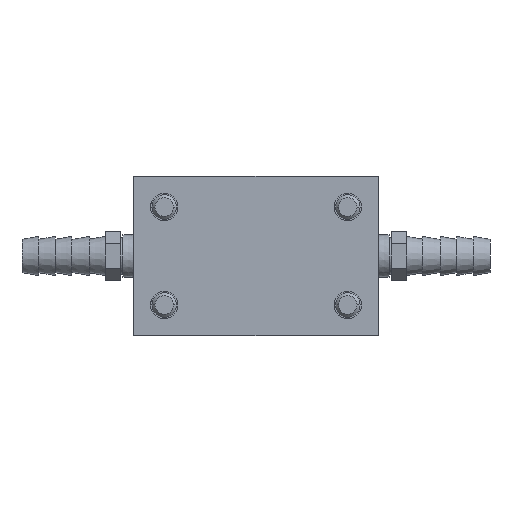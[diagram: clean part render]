
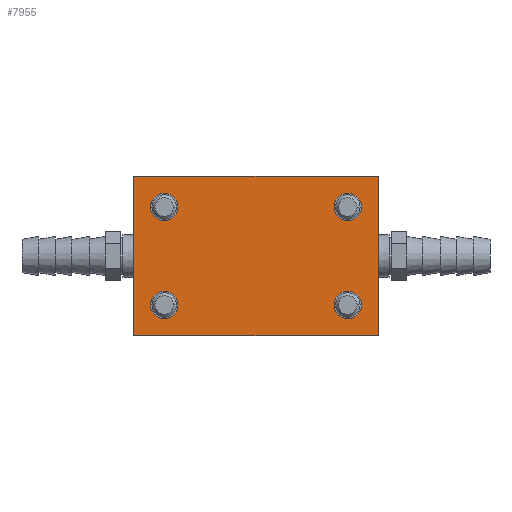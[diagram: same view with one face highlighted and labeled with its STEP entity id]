
A CAD part, left-side view. The second image highlights one B-rep face of the part: STEP entity #7955.
In plain terms, the highlighted planar face has unit normal (-1, 0, 0).
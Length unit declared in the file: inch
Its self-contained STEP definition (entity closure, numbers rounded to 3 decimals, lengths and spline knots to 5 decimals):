
#7693=CARTESIAN_POINT('',(-3.125,-0.9375,-0.5));
#7694=DIRECTION('',(1.,0.,0.));
#7695=DIRECTION('',(0.,-1.,0.));
#7696=AXIS2_PLACEMENT_3D('',#7693,#7694,#7695);
#7698=CARTESIAN_POINT('',(-3.125,-0.9375,-0.5));
#7699=DIRECTION('',(1.,0.,0.));
#7700=DIRECTION('',(0.,1.,0.));
#7701=AXIS2_PLACEMENT_3D('',#7698,#7699,#7700);
#7703=CARTESIAN_POINT('',(-3.125,0.9375,-0.5));
#7704=DIRECTION('',(1.,0.,0.));
#7705=DIRECTION('',(0.,-1.,0.));
#7706=AXIS2_PLACEMENT_3D('',#7703,#7704,#7705);
#7708=CARTESIAN_POINT('',(-3.125,0.9375,-0.5));
#7709=DIRECTION('',(1.,0.,0.));
#7710=DIRECTION('',(0.,1.,0.));
#7711=AXIS2_PLACEMENT_3D('',#7708,#7709,#7710);
#7713=CARTESIAN_POINT('',(-3.125,0.9375,0.5));
#7714=DIRECTION('',(1.,0.,0.));
#7715=DIRECTION('',(0.,-1.,0.));
#7716=AXIS2_PLACEMENT_3D('',#7713,#7714,#7715);
#7718=CARTESIAN_POINT('',(-3.125,0.9375,0.5));
#7719=DIRECTION('',(1.,0.,0.));
#7720=DIRECTION('',(0.,1.,0.));
#7721=AXIS2_PLACEMENT_3D('',#7718,#7719,#7720);
#7723=CARTESIAN_POINT('',(-3.125,-0.9375,0.5));
#7724=DIRECTION('',(1.,0.,0.));
#7725=DIRECTION('',(0.,-1.,0.));
#7726=AXIS2_PLACEMENT_3D('',#7723,#7724,#7725);
#7728=CARTESIAN_POINT('',(-3.125,-0.9375,0.5));
#7729=DIRECTION('',(1.,0.,0.));
#7730=DIRECTION('',(0.,1.,0.));
#7731=AXIS2_PLACEMENT_3D('',#7728,#7729,#7730);
#7825=DIRECTION('',(0.,0.,-1.));
#7826=VECTOR('',#7825,1.625);
#7827=CARTESIAN_POINT('',(-3.125,-1.25,0.8125));
#7828=LINE('',#7827,#7826);
#7833=DIRECTION('',(0.,1.,0.));
#7834=VECTOR('',#7833,2.5);
#7835=CARTESIAN_POINT('',(-3.125,-1.25,-0.8125));
#7836=LINE('',#7835,#7834);
#7837=DIRECTION('',(0.,0.,1.));
#7838=VECTOR('',#7837,1.625);
#7839=CARTESIAN_POINT('',(-3.125,1.25,-0.8125));
#7840=LINE('',#7839,#7838);
#7845=DIRECTION('',(0.,-1.,0.));
#7846=VECTOR('',#7845,2.5);
#7847=CARTESIAN_POINT('',(-3.125,1.25,0.8125));
#7848=LINE('',#7847,#7846);
#7857=CARTESIAN_POINT('',(-3.125,-1.25,-0.8125));
#7858=CARTESIAN_POINT('',(-3.125,1.25,-0.8125));
#7859=VERTEX_POINT('',#7857);
#7860=VERTEX_POINT('',#7858);
#7863=CARTESIAN_POINT('',(-3.125,-1.25,0.8125));
#7864=VERTEX_POINT('',#7863);
#7865=CARTESIAN_POINT('',(-3.125,1.25,0.8125));
#7866=VERTEX_POINT('',#7865);
#7869=CARTESIAN_POINT('',(-3.125,1.07813,0.5));
#7871=VERTEX_POINT('',#7869);
#7873=CARTESIAN_POINT('',(-3.125,0.79688,0.5));
#7875=VERTEX_POINT('',#7873);
#7877=CARTESIAN_POINT('',(-3.125,-0.79688,0.5));
#7879=VERTEX_POINT('',#7877);
#7881=CARTESIAN_POINT('',(-3.125,-1.07813,0.5));
#7883=VERTEX_POINT('',#7881);
#7885=CARTESIAN_POINT('',(-3.125,1.07813,-0.5));
#7887=VERTEX_POINT('',#7885);
#7889=CARTESIAN_POINT('',(-3.125,0.79688,-0.5));
#7891=VERTEX_POINT('',#7889);
#7893=CARTESIAN_POINT('',(-3.125,-0.79688,-0.5));
#7895=VERTEX_POINT('',#7893);
#7897=CARTESIAN_POINT('',(-3.125,-1.07813,-0.5));
#7899=VERTEX_POINT('',#7897);
#7917=CARTESIAN_POINT('',(-3.125,0.,0.));
#7918=DIRECTION('',(1.,0.,0.));
#7919=DIRECTION('',(0.,-1.,0.));
#7920=AXIS2_PLACEMENT_3D('',#7917,#7918,#7919);
#7921=PLANE('',#7920);
#7923=ORIENTED_EDGE('',*,*,#7922,.T.);
#7925=ORIENTED_EDGE('',*,*,#7924,.T.);
#7927=ORIENTED_EDGE('',*,*,#7926,.T.);
#7929=ORIENTED_EDGE('',*,*,#7928,.T.);
#7930=EDGE_LOOP('',(#7923,#7925,#7927,#7929));
#7931=FACE_OUTER_BOUND('',#7930,.F.);
#7933=ORIENTED_EDGE('',*,*,#7932,.F.);
#7935=ORIENTED_EDGE('',*,*,#7934,.F.);
#7936=EDGE_LOOP('',(#7933,#7935));
#7937=FACE_BOUND('',#7936,.F.);
#7938=ORIENTED_EDGE('',*,*,#7906,.F.);
#7940=ORIENTED_EDGE('',*,*,#7939,.F.);
#7941=EDGE_LOOP('',(#7938,#7940));
#7942=FACE_BOUND('',#7941,.F.);
#7944=ORIENTED_EDGE('',*,*,#7943,.F.);
#7946=ORIENTED_EDGE('',*,*,#7945,.F.);
#7947=EDGE_LOOP('',(#7944,#7946));
#7948=FACE_BOUND('',#7947,.F.);
#7950=ORIENTED_EDGE('',*,*,#7949,.F.);
#7952=ORIENTED_EDGE('',*,*,#7951,.F.);
#7953=EDGE_LOOP('',(#7950,#7952));
#7954=FACE_BOUND('',#7953,.F.);
#7697=CIRCLE('',#7696,0.14063);
#7702=CIRCLE('',#7701,0.14063);
#7707=CIRCLE('',#7706,0.14063);
#7712=CIRCLE('',#7711,0.14063);
#7717=CIRCLE('',#7716,0.14063);
#7722=CIRCLE('',#7721,0.14063);
#7727=CIRCLE('',#7726,0.14063);
#7732=CIRCLE('',#7731,0.14063);
#7906=EDGE_CURVE('',#7875,#7871,#7717,.T.);
#7922=EDGE_CURVE('',#7859,#7860,#7836,.T.);
#7924=EDGE_CURVE('',#7860,#7866,#7840,.T.);
#7926=EDGE_CURVE('',#7866,#7864,#7848,.T.);
#7928=EDGE_CURVE('',#7864,#7859,#7828,.T.);
#7932=EDGE_CURVE('',#7891,#7887,#7707,.T.);
#7934=EDGE_CURVE('',#7887,#7891,#7712,.T.);
#7939=EDGE_CURVE('',#7871,#7875,#7722,.T.);
#7943=EDGE_CURVE('',#7883,#7879,#7727,.T.);
#7945=EDGE_CURVE('',#7879,#7883,#7732,.T.);
#7949=EDGE_CURVE('',#7899,#7895,#7697,.T.);
#7951=EDGE_CURVE('',#7895,#7899,#7702,.T.);
#7955=ADVANCED_FACE('',(#7931,#7937,#7942,#7948,#7954),#7921,.F.);
